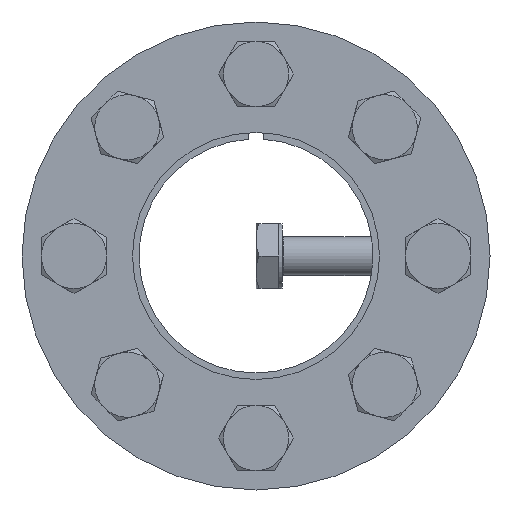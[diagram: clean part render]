
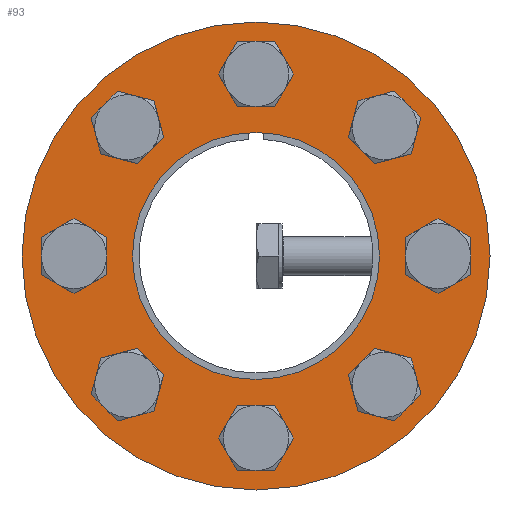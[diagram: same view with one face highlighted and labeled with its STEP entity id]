
A CAD part, front view. The second image highlights one B-rep face of the part: STEP entity #93.
In plain terms, the highlighted planar face has unit normal (0, -1, 0).
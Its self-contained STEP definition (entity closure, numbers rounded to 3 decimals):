
#93 = ADVANCED_FACE( '', ( #213, #214, #215, #216, #217, #218, #219, #220, #221, #222 ), #223, .F. );
#213 = FACE_BOUND( '', #418, .T. );
#214 = FACE_BOUND( '', #419, .T. );
#215 = FACE_BOUND( '', #420, .T. );
#216 = FACE_BOUND( '', #421, .T. );
#217 = FACE_BOUND( '', #422, .T. );
#218 = FACE_OUTER_BOUND( '', #423, .T. );
#219 = FACE_BOUND( '', #424, .T. );
#220 = FACE_BOUND( '', #425, .T. );
#221 = FACE_BOUND( '', #426, .T. );
#222 = FACE_BOUND( '', #427, .T. );
#223 = PLANE( '', #428 );
#418 = EDGE_LOOP( '', ( #668 ) );
#419 = EDGE_LOOP( '', ( #669 ) );
#420 = EDGE_LOOP( '', ( #670 ) );
#421 = EDGE_LOOP( '', ( #671 ) );
#422 = EDGE_LOOP( '', ( #672 ) );
#423 = EDGE_LOOP( '', ( #673 ) );
#424 = EDGE_LOOP( '', ( #674 ) );
#425 = EDGE_LOOP( '', ( #675 ) );
#426 = EDGE_LOOP( '', ( #676 ) );
#427 = EDGE_LOOP( '', ( #677 ) );
#428 = AXIS2_PLACEMENT_3D( '', #678, #679, #680 );
#668 = ORIENTED_EDGE( '', *, *, #1019, .T. );
#669 = ORIENTED_EDGE( '', *, *, #1020, .T. );
#670 = ORIENTED_EDGE( '', *, *, #1021, .T. );
#671 = ORIENTED_EDGE( '', *, *, #1022, .T. );
#672 = ORIENTED_EDGE( '', *, *, #1023, .F. );
#673 = ORIENTED_EDGE( '', *, *, #1024, .T. );
#674 = ORIENTED_EDGE( '', *, *, #1025, .T. );
#675 = ORIENTED_EDGE( '', *, *, #1026, .T. );
#676 = ORIENTED_EDGE( '', *, *, #1027, .T. );
#677 = ORIENTED_EDGE( '', *, *, #1017, .T. );
#678 = CARTESIAN_POINT( '', ( 0., -11.75, 36. ) );
#679 = DIRECTION( '', ( 0., 1., 0. ) );
#680 = DIRECTION( '', ( 0., 0., 1. ) );
#1017 = EDGE_CURVE( '', #1210, #1210, #1211, .T. );
#1019 = EDGE_CURVE( '', #1213, #1213, #1214, .T. );
#1020 = EDGE_CURVE( '', #1215, #1215, #1216, .T. );
#1021 = EDGE_CURVE( '', #1217, #1217, #1218, .T. );
#1022 = EDGE_CURVE( '', #1219, #1219, #1220, .T. );
#1023 = EDGE_CURVE( '', #1221, #1221, #1222, .T. );
#1024 = EDGE_CURVE( '', #1223, #1223, #1224, .T. );
#1025 = EDGE_CURVE( '', #1225, #1225, #1226, .T. );
#1026 = EDGE_CURVE( '', #1227, #1227, #1228, .T. );
#1027 = EDGE_CURVE( '', #1229, #1229, #1230, .T. );
#1210 = VERTEX_POINT( '', #1576 );
#1211 = CIRCLE( '', #1577, 3. );
#1213 = VERTEX_POINT( '', #1579 );
#1214 = CIRCLE( '', #1580, 3. );
#1215 = VERTEX_POINT( '', #1581 );
#1216 = CIRCLE( '', #1582, 3. );
#1217 = VERTEX_POINT( '', #1583 );
#1218 = CIRCLE( '', #1584, 3. );
#1219 = VERTEX_POINT( '', #1585 );
#1220 = CIRCLE( '', #1586, 3. );
#1221 = VERTEX_POINT( '', #1587 );
#1222 = CIRCLE( '', #1588, 19. );
#1223 = VERTEX_POINT( '', #1589 );
#1224 = CIRCLE( '', #1590, 36. );
#1225 = VERTEX_POINT( '', #1591 );
#1226 = CIRCLE( '', #1592, 3. );
#1227 = VERTEX_POINT( '', #1593 );
#1228 = CIRCLE( '', #1594, 3. );
#1229 = VERTEX_POINT( '', #1595 );
#1230 = CIRCLE( '', #1596, 3. );
#1576 = CARTESIAN_POINT( '', ( -17.678, -11.75, 21.92 ) );
#1577 = AXIS2_PLACEMENT_3D( '', #1816, #1817, #1818 );
#1579 = CARTESIAN_POINT( '', ( -28., -11.75, 3. ) );
#1580 = AXIS2_PLACEMENT_3D( '', #1819, #1820, #1821 );
#1581 = CARTESIAN_POINT( '', ( -3., -11.75, -28. ) );
#1582 = AXIS2_PLACEMENT_3D( '', #1822, #1823, #1824 );
#1583 = CARTESIAN_POINT( '', ( 28., -11.75, -3. ) );
#1584 = AXIS2_PLACEMENT_3D( '', #1825, #1826, #1827 );
#1585 = CARTESIAN_POINT( '', ( 3., -11.75, 28. ) );
#1586 = AXIS2_PLACEMENT_3D( '', #1828, #1829, #1830 );
#1587 = CARTESIAN_POINT( '', ( 0., -11.75, -19. ) );
#1588 = AXIS2_PLACEMENT_3D( '', #1831, #1832, #1833 );
#1589 = CARTESIAN_POINT( '', ( 0., -11.75, -36. ) );
#1590 = AXIS2_PLACEMENT_3D( '', #1834, #1835, #1836 );
#1591 = CARTESIAN_POINT( '', ( 21.92, -11.75, 17.678 ) );
#1592 = AXIS2_PLACEMENT_3D( '', #1837, #1838, #1839 );
#1593 = CARTESIAN_POINT( '', ( 17.678, -11.75, -21.92 ) );
#1594 = AXIS2_PLACEMENT_3D( '', #1840, #1841, #1842 );
#1595 = CARTESIAN_POINT( '', ( -21.92, -11.75, -17.678 ) );
#1596 = AXIS2_PLACEMENT_3D( '', #1843, #1844, #1845 );
#1816 = CARTESIAN_POINT( '', ( -19.799, -11.75, 19.799 ) );
#1817 = DIRECTION( '', ( 0., 1., 0. ) );
#1818 = DIRECTION( '', ( 0.707, 0., 0.707 ) );
#1819 = CARTESIAN_POINT( '', ( -28., -11.75, 0. ) );
#1820 = DIRECTION( '', ( 0., 1., 0. ) );
#1821 = DIRECTION( '', ( 0., 0., 1. ) );
#1822 = CARTESIAN_POINT( '', ( 0., -11.75, -28. ) );
#1823 = DIRECTION( '', ( 0., 1., 0. ) );
#1824 = DIRECTION( '', ( -1., 0., 0. ) );
#1825 = CARTESIAN_POINT( '', ( 28., -11.75, 0. ) );
#1826 = DIRECTION( '', ( 0., 1., 0. ) );
#1827 = DIRECTION( '', ( 0., 0., -1. ) );
#1828 = CARTESIAN_POINT( '', ( 0., -11.75, 28. ) );
#1829 = DIRECTION( '', ( 0., 1., 0. ) );
#1830 = DIRECTION( '', ( 1., 0., 0. ) );
#1831 = CARTESIAN_POINT( '', ( 0., -11.75, 0. ) );
#1832 = DIRECTION( '', ( 0., -1., 0. ) );
#1833 = DIRECTION( '', ( 0., 0., -1. ) );
#1834 = CARTESIAN_POINT( '', ( 0., -11.75, 0. ) );
#1835 = DIRECTION( '', ( 0., -1., 0. ) );
#1836 = DIRECTION( '', ( 0., 0., -1. ) );
#1837 = CARTESIAN_POINT( '', ( 19.799, -11.75, 19.799 ) );
#1838 = DIRECTION( '', ( 0., 1., 0. ) );
#1839 = DIRECTION( '', ( 0.707, 0., -0.707 ) );
#1840 = CARTESIAN_POINT( '', ( 19.799, -11.75, -19.799 ) );
#1841 = DIRECTION( '', ( 0., 1., 0. ) );
#1842 = DIRECTION( '', ( -0.707, 0., -0.707 ) );
#1843 = CARTESIAN_POINT( '', ( -19.799, -11.75, -19.799 ) );
#1844 = DIRECTION( '', ( 0., 1., 0. ) );
#1845 = DIRECTION( '', ( -0.707, 0., 0.707 ) );
